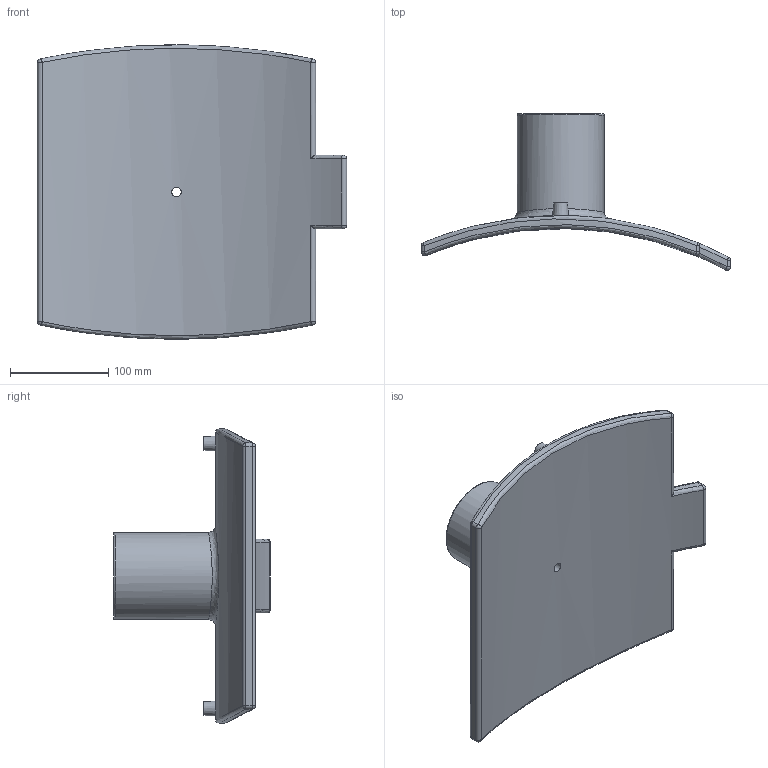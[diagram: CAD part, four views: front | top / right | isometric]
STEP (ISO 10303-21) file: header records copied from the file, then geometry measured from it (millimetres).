
FILE_DESCRIPTION(/* description */ ('PLASSON BRANCH SADDLE 18''''-28''''IPS x 16''''-24''''DIPS'),/* implementation_level */ '2;1');
FILE_NAME(/* name */ 'C:\Dropbox\KIMPROJECTS-Inventor 2019\99-16-3568-Processing Inch\ASTM ElectroFusion 2021\5958B-1\5958BB03280030.ipt.stp',/* time_stamp */ '2021-08-30T09:53:24+03:00',/* author */ ('KIM'),/* organization */ (''),/* preprocessor_version */ 'ST-DEVELOPER v17.2',/* originating_system */ 'Autodesk Inventor 2019',/* authorisation */ '');
FILE_SCHEMA (('AUTOMOTIVE_DESIGN { 1 0 10303 214 3 1 1 }'));
Length unit declared in the file: inch
Products named in the file (1): 5958BB03280030
Bounding box: 314.96 x 159.67 x 299.9 mm (x, y, z)
Volume: 1360407 mm3; surface area: 241727.7 mm2
Topology: 1 solids, 1 shells, 66 faces, 136 edges, 81 vertices
Faces by surface type: cylinder 27, plane 14, sphere 12, torus 6, bspline 5, cone 2
Full cylindrical faces by diameter (mm): 4 x2, 9.6 x1, 10 x2, 16 x1, 70.96 x1, 88.7 x1
Entity records: 2411 total; most frequent: CARTESIAN_POINT 977, DIRECTION 304, ORIENTED_EDGE 272, EDGE_CURVE 136, AXIS2_PLACEMENT_3D 132, VERTEX_POINT 81, EDGE_LOOP 77, CIRCLE 70
